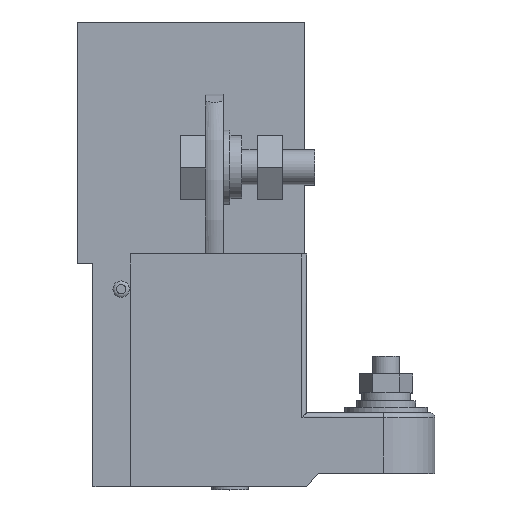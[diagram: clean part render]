
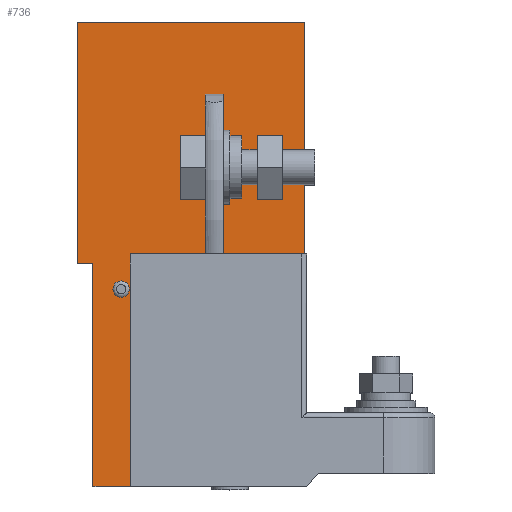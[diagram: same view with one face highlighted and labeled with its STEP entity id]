
A CAD part, top view. The second image highlights one B-rep face of the part: STEP entity #736.
In plain terms, the highlighted planar face has unit normal (0, 0, 1).
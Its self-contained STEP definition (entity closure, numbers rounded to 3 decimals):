
#222=FACE_BOUND('',#1839,.T.);
#223=FACE_BOUND('',#1840,.T.);
#224=FACE_BOUND('',#1841,.T.);
#225=FACE_BOUND('',#1842,.T.);
#456=CIRCLE('',#7468,1.75);
#457=CIRCLE('',#7469,1.75);
#458=CIRCLE('',#7470,1.75);
#736=ADVANCED_FACE('',(#222,#223,#224,#225),#1179,.T.);
#1179=PLANE('',#7471);
#1839=EDGE_LOOP('',(#2458));
#1840=EDGE_LOOP('',(#2459));
#1841=EDGE_LOOP('',(#2460));
#1842=EDGE_LOOP('',(#2461,#2462,#2463,#2464,#2465,#2466,#2467,#2468,#2469,
#2470,#2471,#2472,#2473,#2474,#2475,#2476));
#2458=ORIENTED_EDGE('',*,*,#5112,.T.);
#2459=ORIENTED_EDGE('',*,*,#5113,.T.);
#2460=ORIENTED_EDGE('',*,*,#5114,.T.);
#2461=ORIENTED_EDGE('',*,*,#5066,.T.);
#2462=ORIENTED_EDGE('',*,*,#5070,.T.);
#2463=ORIENTED_EDGE('',*,*,#5073,.T.);
#2464=ORIENTED_EDGE('',*,*,#5076,.T.);
#2465=ORIENTED_EDGE('',*,*,#5079,.T.);
#2466=ORIENTED_EDGE('',*,*,#5082,.T.);
#2467=ORIENTED_EDGE('',*,*,#5085,.T.);
#2468=ORIENTED_EDGE('',*,*,#5088,.T.);
#2469=ORIENTED_EDGE('',*,*,#5091,.T.);
#2470=ORIENTED_EDGE('',*,*,#5094,.T.);
#2471=ORIENTED_EDGE('',*,*,#5097,.T.);
#2472=ORIENTED_EDGE('',*,*,#5100,.T.);
#2473=ORIENTED_EDGE('',*,*,#5103,.T.);
#2474=ORIENTED_EDGE('',*,*,#5106,.T.);
#2475=ORIENTED_EDGE('',*,*,#5109,.T.);
#2476=ORIENTED_EDGE('',*,*,#5111,.T.);
#4382=VERTEX_POINT('',#10283);
#4383=VERTEX_POINT('',#10285);
#4385=VERTEX_POINT('',#10291);
#4387=VERTEX_POINT('',#10297);
#4389=VERTEX_POINT('',#10303);
#4391=VERTEX_POINT('',#10309);
#4393=VERTEX_POINT('',#10315);
#4395=VERTEX_POINT('',#10321);
#4397=VERTEX_POINT('',#10327);
#4399=VERTEX_POINT('',#10333);
#4401=VERTEX_POINT('',#10339);
#4403=VERTEX_POINT('',#10345);
#4405=VERTEX_POINT('',#10351);
#4407=VERTEX_POINT('',#10357);
#4409=VERTEX_POINT('',#10363);
#4411=VERTEX_POINT('',#10369);
#4412=VERTEX_POINT('',#10376);
#4413=VERTEX_POINT('',#10378);
#4414=VERTEX_POINT('',#10380);
#5066=EDGE_CURVE('',#4383,#4382,#6059,.T.);
#5070=EDGE_CURVE('',#4382,#4385,#6063,.T.);
#5073=EDGE_CURVE('',#4385,#4387,#6066,.T.);
#5076=EDGE_CURVE('',#4387,#4389,#6069,.T.);
#5079=EDGE_CURVE('',#4389,#4391,#6072,.T.);
#5082=EDGE_CURVE('',#4391,#4393,#6075,.T.);
#5085=EDGE_CURVE('',#4393,#4395,#6078,.T.);
#5088=EDGE_CURVE('',#4395,#4397,#6081,.T.);
#5091=EDGE_CURVE('',#4397,#4399,#6084,.T.);
#5094=EDGE_CURVE('',#4399,#4401,#6087,.T.);
#5097=EDGE_CURVE('',#4401,#4403,#6090,.T.);
#5100=EDGE_CURVE('',#4403,#4405,#6093,.T.);
#5103=EDGE_CURVE('',#4405,#4407,#6096,.T.);
#5106=EDGE_CURVE('',#4407,#4409,#6099,.T.);
#5109=EDGE_CURVE('',#4409,#4411,#6102,.T.);
#5111=EDGE_CURVE('',#4411,#4383,#6104,.T.);
#5112=EDGE_CURVE('',#4412,#4412,#456,.T.);
#5113=EDGE_CURVE('',#4413,#4413,#457,.T.);
#5114=EDGE_CURVE('',#4414,#4414,#458,.T.);
#6059=LINE('',#10284,#6756);
#6063=LINE('',#10292,#6760);
#6066=LINE('',#10298,#6763);
#6069=LINE('',#10304,#6766);
#6072=LINE('',#10310,#6769);
#6075=LINE('',#10316,#6772);
#6078=LINE('',#10322,#6775);
#6081=LINE('',#10328,#6778);
#6084=LINE('',#10334,#6781);
#6087=LINE('',#10340,#6784);
#6090=LINE('',#10346,#6787);
#6093=LINE('',#10352,#6790);
#6096=LINE('',#10358,#6793);
#6099=LINE('',#10364,#6796);
#6102=LINE('',#10370,#6799);
#6104=LINE('',#10373,#6801);
#6756=VECTOR('',#8165,1.);
#6760=VECTOR('',#8171,1.);
#6763=VECTOR('',#8176,1.);
#6766=VECTOR('',#8181,1.);
#6769=VECTOR('',#8186,1.);
#6772=VECTOR('',#8191,1.);
#6775=VECTOR('',#8196,1.);
#6778=VECTOR('',#8201,1.);
#6781=VECTOR('',#8206,1.);
#6784=VECTOR('',#8211,1.);
#6787=VECTOR('',#8216,1.);
#6790=VECTOR('',#8221,1.);
#6793=VECTOR('',#8226,1.);
#6796=VECTOR('',#8231,1.);
#6799=VECTOR('',#8236,1.);
#6801=VECTOR('',#8240,1.);
#7468=AXIS2_PLACEMENT_3D('',#10375,#8243,#8244);
#7469=AXIS2_PLACEMENT_3D('',#10377,#8245,#8246);
#7470=AXIS2_PLACEMENT_3D('',#10379,#8247,#8248);
#7471=AXIS2_PLACEMENT_3D('',#10381,#8249,#8250);
#8165=DIRECTION('',(1.,0.,0.));
#8171=DIRECTION('',(0.,1.,0.));
#8176=DIRECTION('',(-1.,0.,0.));
#8181=DIRECTION('',(0.,-1.,0.));
#8186=DIRECTION('',(-1.,0.,0.));
#8191=DIRECTION('',(-0.707,0.707,0.));
#8196=DIRECTION('',(0.,1.,0.));
#8201=DIRECTION('',(0.707,0.707,0.));
#8206=DIRECTION('',(1.,0.,0.));
#8211=DIRECTION('',(0.,1.,0.));
#8216=DIRECTION('',(1.,0.,0.));
#8221=DIRECTION('',(0.,1.,0.));
#8226=DIRECTION('',(-1.,0.,0.));
#8231=DIRECTION('',(0.,-1.,0.));
#8236=DIRECTION('',(1.,0.,0.));
#8240=DIRECTION('',(0.,-1.,0.));
#8243=DIRECTION('',(0.,0.,-1.));
#8244=DIRECTION('',(0.,1.,0.));
#8245=DIRECTION('',(0.,0.,-1.));
#8246=DIRECTION('',(0.,1.,0.));
#8247=DIRECTION('',(0.,0.,-1.));
#8248=DIRECTION('',(0.,1.,0.));
#8249=DIRECTION('',(0.,0.,1.));
#8250=DIRECTION('',(0.,1.,0.));
#10283=CARTESIAN_POINT('',(12.,0.,15.9));
#10284=CARTESIAN_POINT('',(-8.,0.,15.9));
#10285=CARTESIAN_POINT('',(-8.,0.,15.9));
#10291=CARTESIAN_POINT('',(12.,10.5,15.9));
#10292=CARTESIAN_POINT('',(12.,0.,15.9));
#10297=CARTESIAN_POINT('',(6.2,10.5,15.9));
#10298=CARTESIAN_POINT('',(12.,10.5,15.9));
#10303=CARTESIAN_POINT('',(6.2,6.,15.9));
#10304=CARTESIAN_POINT('',(6.2,10.5,15.9));
#10309=CARTESIAN_POINT('',(3.5,6.,15.9));
#10310=CARTESIAN_POINT('',(6.2,6.,15.9));
#10315=CARTESIAN_POINT('',(0.5,9.,15.9));
#10316=CARTESIAN_POINT('',(3.5,6.,15.9));
#10321=CARTESIAN_POINT('',(0.5,31.5,15.9));
#10322=CARTESIAN_POINT('',(0.5,9.,15.9));
#10327=CARTESIAN_POINT('',(4.,35.,15.9));
#10328=CARTESIAN_POINT('',(0.5,31.5,15.9));
#10333=CARTESIAN_POINT('',(31.6,35.,15.9));
#10334=CARTESIAN_POINT('',(4.,35.,15.9));
#10339=CARTESIAN_POINT('',(31.6,48.,15.9));
#10340=CARTESIAN_POINT('',(31.6,35.,15.9));
#10345=CARTESIAN_POINT('',(37.6,48.,15.9));
#10346=CARTESIAN_POINT('',(31.6,48.,15.9));
#10351=CARTESIAN_POINT('',(37.6,100.,15.9));
#10352=CARTESIAN_POINT('',(37.6,48.,15.9));
#10357=CARTESIAN_POINT('',(-11.4,100.,15.9));
#10358=CARTESIAN_POINT('',(37.6,100.,15.9));
#10363=CARTESIAN_POINT('',(-11.4,48.,15.9));
#10364=CARTESIAN_POINT('',(-11.4,100.,15.9));
#10369=CARTESIAN_POINT('',(-8.,48.,15.9));
#10370=CARTESIAN_POINT('',(-11.4,48.,15.9));
#10373=CARTESIAN_POINT('',(-8.,48.,15.9));
#10375=CARTESIAN_POINT('',(25.55,42.5,15.9));
#10376=CARTESIAN_POINT('',(25.55,44.25,15.9));
#10377=CARTESIAN_POINT('',(11.8,42.5,15.9));
#10378=CARTESIAN_POINT('',(11.8,44.25,15.9));
#10379=CARTESIAN_POINT('',(-1.95,42.5,15.9));
#10380=CARTESIAN_POINT('',(-1.95,44.25,15.9));
#10381=CARTESIAN_POINT('',(37.6,48.,15.9));
